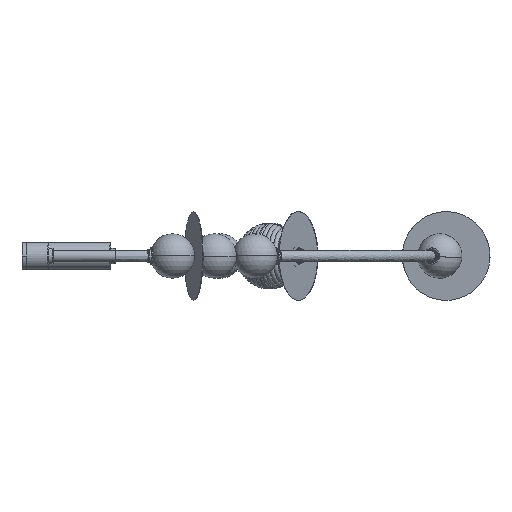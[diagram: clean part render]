
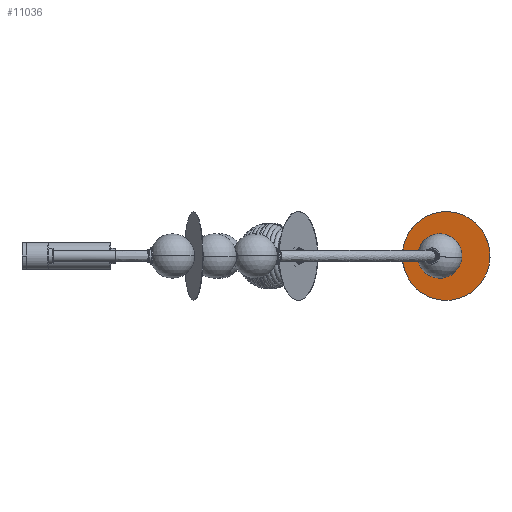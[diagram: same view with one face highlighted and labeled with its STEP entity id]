
A CAD part, left-side view. The second image highlights one B-rep face of the part: STEP entity #11036.
In plain terms, the highlighted planar face has unit normal (-0.986, 0.164, 0) as drawn and (0, -1, 0) by its records, which use the part's own axes.
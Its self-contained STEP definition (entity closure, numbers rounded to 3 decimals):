
#541 = DIRECTION ( 'NONE',  ( 0., 0., 1. ) ) ;
#657 = EDGE_LOOP ( 'NONE', ( #8701, #9155 ) ) ;
#740 = DIRECTION ( 'NONE',  ( 0., 1., 0. ) ) ;
#822 = AXIS2_PLACEMENT_3D ( 'NONE', #6567, #2239, #6375 ) ;
#1094 = CARTESIAN_POINT ( 'NONE',  ( 0., 0., 100. ) ) ;
#1470 = AXIS2_PLACEMENT_3D ( 'NONE', #8034, #2014, #9252 ) ;
#1678 = CIRCLE ( 'NONE', #4480, 100. ) ;
#1896 = AXIS2_PLACEMENT_3D ( 'NONE', #2626, #740, #5959 ) ;
#2014 = DIRECTION ( 'NONE',  ( 0., 1., 0. ) ) ;
#2239 = DIRECTION ( 'NONE',  ( 0., 1., 0. ) ) ;
#2626 = CARTESIAN_POINT ( 'NONE',  ( 0., 0., 0. ) ) ;
#2788 = VERTEX_POINT ( 'NONE', #8983 ) ;
#3015 = CARTESIAN_POINT ( 'NONE',  ( 0., 0., -100. ) ) ;
#3569 = FACE_OUTER_BOUND ( 'NONE', #657, .T. ) ;
#3850 = ORIENTED_EDGE ( 'NONE', *, *, #11416, .T. ) ;
#4480 = AXIS2_PLACEMENT_3D ( 'NONE', #11861, #10056, #541 ) ;
#4859 = EDGE_LOOP ( 'NONE', ( #3850, #7316 ) ) ;
#5549 = CARTESIAN_POINT ( 'NONE',  ( 0., 0., -12.5 ) ) ;
#5959 = DIRECTION ( 'NONE',  ( 0., 0., 1. ) ) ;
#6375 = DIRECTION ( 'NONE',  ( 0., 0., 1. ) ) ;
#6462 = CIRCLE ( 'NONE', #1470, 12.5 ) ;
#6567 = CARTESIAN_POINT ( 'NONE',  ( 0., 0., 0. ) ) ;
#7271 = CARTESIAN_POINT ( 'NONE',  ( 0., 0., 0. ) ) ;
#7316 = ORIENTED_EDGE ( 'NONE', *, *, #12149, .T. ) ;
#7522 = CIRCLE ( 'NONE', #12874, 100. ) ;
#7576 = PLANE ( 'NONE',  #822 ) ;
#8034 = CARTESIAN_POINT ( 'NONE',  ( 0., 0., 0. ) ) ;
#8219 = DIRECTION ( 'NONE',  ( 0., 0., 1. ) ) ;
#8257 = VERTEX_POINT ( 'NONE', #1094 ) ;
#8334 = VERTEX_POINT ( 'NONE', #3015 ) ;
#8556 = EDGE_CURVE ( 'NONE', #8257, #8334, #7522, .T. ) ;
#8584 = FACE_BOUND ( 'NONE', #4859, .T. ) ;
#8701 = ORIENTED_EDGE ( 'NONE', *, *, #11355, .F. ) ;
#8983 = CARTESIAN_POINT ( 'NONE',  ( 0., 0., 12.5 ) ) ;
#9155 = ORIENTED_EDGE ( 'NONE', *, *, #8556, .F. ) ;
#9252 = DIRECTION ( 'NONE',  ( 0., 0., 1. ) ) ;
#10056 = DIRECTION ( 'NONE',  ( 0., 1., 0. ) ) ;
#10305 = DIRECTION ( 'NONE',  ( 0., 1., 0. ) ) ;
#11036 = ADVANCED_FACE ( 'NONE', ( #3569, #8584 ), #7576, .F. ) ;
#11355 = EDGE_CURVE ( 'NONE', #8334, #8257, #1678, .T. ) ;
#11416 = EDGE_CURVE ( 'NONE', #11768, #2788, #11792, .T. ) ;
#11768 = VERTEX_POINT ( 'NONE', #5549 ) ;
#11792 = CIRCLE ( 'NONE', #1896, 12.5 ) ;
#11861 = CARTESIAN_POINT ( 'NONE',  ( 0., 0., 0. ) ) ;
#12149 = EDGE_CURVE ( 'NONE', #2788, #11768, #6462, .T. ) ;
#12874 = AXIS2_PLACEMENT_3D ( 'NONE', #7271, #10305, #8219 ) ;
